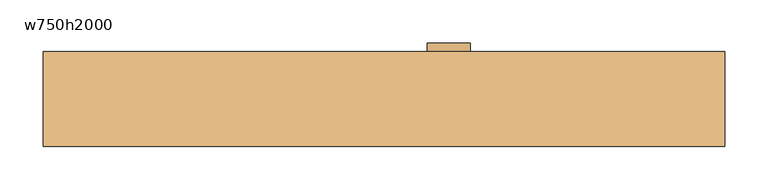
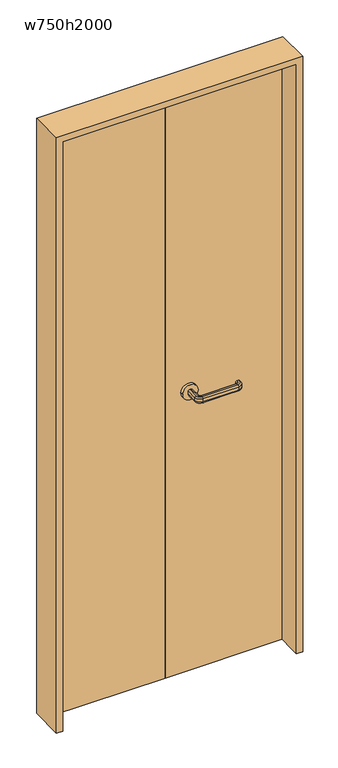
"""IFC4 building model written with IfcOpenShell, lengths in millimetres: door geometry, 両開き : w750h2000."""

from ifc_helpers import new_model, si_unit, point, frame, frame_2d, origin, origin_with_axes, place, context, project, spatial, polyline, circle_curve, ellipse_curve, trimmed, segment, composite_curve, outline, extrude, source, transform, mapped, element, save
from ifc_brep_helpers import plane_surface, cylinder_surface, revolved_surface, advanced_brep


def w750h2000_6e5f9a8d(model_context):
    return source(origin(), model_context, "Body", "SolidModel", [
        advanced_brep(
        [(77.0, 15.0, 940.0), (73.0, 15.0, 940.0), (68.0, 15.0, 945.0), (68.0, 15.0, 955.0), (73.0, 15.0, 960.0), (77.0, 15.0, 960.0), (82.0, 15.0, 955.0), (82.0, 15.0, 945.0), (77.0, -20.0, 940.0), (85.0, -28.0, 940.0), (200.0, -28.0, 940.0), (208.0, -20.0, 940.0), (208.0, -15.0, 940.0), (212.0, -15.0, 940.0), (212.0, -20.0, 940.0), (200.0, -32.0, 940.0), (85.0, -32.0, 940.0), (73.0, -20.0, 940.0), (68.0, -20.0, 945.0), (68.0, -20.0, 955.0), (73.0, -20.0, 960.0), (85.0, -32.0, 960.0), (200.0, -32.0, 960.0), (212.0, -20.0, 960.0), (212.0, -15.0, 960.0), (208.0, -15.0, 960.0), (208.0, -20.0, 960.0), (200.0, -28.0, 960.0), (85.0, -28.0, 960.0), (77.0, -20.0, 960.0), (82.0, -20.0, 955.0), (82.0, -20.0, 945.0), (85.0, -37.0, 945.0), (85.0, -37.0, 955.0), (85.0, -23.0, 955.0), (85.0, -23.0, 945.0), (200.0, -37.0, 945.0), (200.0, -37.0, 955.0), (200.0, -23.0, 955.0), (200.0, -23.0, 945.0), (217.0, -20.0, 945.0), (217.0, -20.0, 955.0), (203.0, -20.0, 955.0), (203.0, -20.0, 945.0), (203.0, -15.0, 945.0), (203.0, -15.0, 955.0), (217.0, -15.0, 955.0), (217.0, -15.0, 945.0)],
        [
            (0, 1),
            (1, 2, circle_curve(frame((73.0, 15.0, 945.0), z_axis=(0.0, 1.0, 0.0), x_axis=(1.0, 0.0, 0.0)), 5.0)),
            (2, 3),
            (3, 4, circle_curve(frame((73.0, 15.0, 955.0), z_axis=(0.0, 1.0, 0.0), x_axis=(1.0, 0.0, 0.0)), 5.0)),
            (4, 5),
            (5, 6, circle_curve(frame((77.0, 15.0, 955.0), z_axis=(0.0, 1.0, 0.0), x_axis=(1.0, 0.0, 0.0)), 5.0)),
            (6, 7),
            (7, 0, circle_curve(frame((77.0, 15.0, 945.0), z_axis=(0.0, 1.0, 0.0), x_axis=(1.0, 0.0, 0.0)), 5.0)),
            (0, 8),
            (8, 9, circle_curve(frame((85.0, -20.0, 940.0), z_axis=(0.0, 0.0, 1.0), x_axis=(-1.0, 0.0, 0.0)), 8.0)),
            (9, 10),
            (10, 11, circle_curve(frame((200.0, -20.0, 940.0), z_axis=(0.0, 0.0, 1.0), x_axis=(0.0, -1.0, 0.0)), 8.0)),
            (11, 12),
            (12, 13),
            (13, 14),
            (14, 15, circle_curve(frame((200.0, -20.0, 940.0), z_axis=(0.0, 0.0, -1.0), x_axis=(0.0, -1.0, 0.0)), 12.0)),
            (15, 16),
            (16, 17, circle_curve(frame((85.0, -20.0, 940.0), z_axis=(0.0, 0.0, -1.0), x_axis=(-1.0, 0.0, 0.0)), 12.0)),
            (17, 1),
            (17, 18, circle_curve(frame((73.0, -20.0, 945.0), z_axis=(0.0, 1.0, 0.0), x_axis=(1.0, 0.0, 0.0)), 5.0)),
            (18, 2),
            (18, 19),
            (19, 3),
            (19, 20, circle_curve(frame((73.0, -20.0, 955.0), z_axis=(0.0, 1.0, 0.0), x_axis=(1.0, 0.0, 0.0)), 5.0)),
            (20, 4),
            (20, 21, circle_curve(frame((85.0, -20.0, 960.0), z_axis=(0.0, 0.0, 1.0), x_axis=(-1.0, 0.0, 0.0)), 12.0)),
            (21, 22),
            (22, 23, circle_curve(frame((200.0, -20.0, 960.0), z_axis=(0.0, 0.0, 1.0), x_axis=(0.0, -1.0, 0.0)), 12.0)),
            (23, 24),
            (24, 25),
            (25, 26),
            (26, 27, circle_curve(frame((200.0, -20.0, 960.0), z_axis=(0.0, 0.0, -1.0), x_axis=(0.0, -1.0, 0.0)), 8.0)),
            (27, 28),
            (28, 29, circle_curve(frame((85.0, -20.0, 960.0), z_axis=(0.0, 0.0, -1.0), x_axis=(-1.0, 0.0, 0.0)), 8.0)),
            (29, 5),
            (29, 30, circle_curve(frame((77.0, -20.0, 955.0), z_axis=(0.0, 1.0, 0.0), x_axis=(1.0, 0.0, 0.0)), 5.0)),
            (30, 6),
            (30, 31),
            (31, 7),
            (31, 8, circle_curve(frame((77.0, -20.0, 945.0), z_axis=(0.0, 1.0, 0.0), x_axis=(1.0, 0.0, 0.0)), 5.0)),
            (32, 18, circle_curve(frame((85.0, -20.0, 945.0), z_axis=(0.0, 0.0, -1.0), x_axis=(-1.0, 0.0, 0.0)), 17.0)),
            (16, 32, circle_curve(frame((85.0, -32.0, 945.0), z_axis=(-1.0, 0.0, 0.0), x_axis=(0.0, 1.0, 0.0)), 5.0)),
            (33, 19, circle_curve(frame((85.0, -20.0, 955.0), z_axis=(0.0, 0.0, -1.0), x_axis=(-1.0, 0.0, 0.0)), 17.0)),
            (32, 33),
            (33, 21, circle_curve(frame((85.0, -32.0, 955.0), z_axis=(-1.0, 0.0, 0.0), x_axis=(0.0, 1.0, 0.0)), 5.0)),
            (34, 30, circle_curve(frame((85.0, -20.0, 955.0), z_axis=(0.0, 0.0, -1.0), x_axis=(-1.0, 0.0, 0.0)), 3.0)),
            (28, 34, circle_curve(frame((85.0, -28.0, 955.0), z_axis=(-1.0, 0.0, 0.0), x_axis=(0.0, 1.0, 0.0)), 5.0)),
            (35, 31, circle_curve(frame((85.0, -20.0, 945.0), z_axis=(0.0, 0.0, -1.0), x_axis=(-1.0, 0.0, 0.0)), 3.0)),
            (34, 35),
            (35, 9, circle_curve(frame((85.0, -28.0, 945.0), z_axis=(-1.0, 0.0, 0.0), x_axis=(0.0, 1.0, 0.0)), 5.0)),
            (15, 36, circle_curve(frame((200.0, -32.0, 945.0), z_axis=(-1.0, 0.0, 0.0), x_axis=(0.0, 1.0, 0.0)), 5.0)),
            (36, 32),
            (36, 37),
            (37, 33),
            (37, 22, circle_curve(frame((200.0, -32.0, 955.0), z_axis=(-1.0, 0.0, 0.0), x_axis=(0.0, 1.0, 0.0)), 5.0)),
            (27, 38, circle_curve(frame((200.0, -28.0, 955.0), z_axis=(-1.0, 0.0, 0.0), x_axis=(0.0, 1.0, 0.0)), 5.0)),
            (38, 34),
            (38, 39),
            (39, 35),
            (39, 10, circle_curve(frame((200.0, -28.0, 945.0), z_axis=(-1.0, 0.0, 0.0), x_axis=(0.0, 1.0, 0.0)), 5.0)),
            (40, 36, circle_curve(frame((200.0, -20.0, 945.0), z_axis=(0.0, 0.0, -1.0), x_axis=(0.0, -1.0, 0.0)), 17.0)),
            (14, 40, circle_curve(frame((212.0, -20.0, 945.0), z_axis=(0.0, -1.0, 0.0), x_axis=(-1.0, 0.0, 0.0)), 5.0)),
            (41, 37, circle_curve(frame((200.0, -20.0, 955.0), z_axis=(0.0, 0.0, -1.0), x_axis=(0.0, -1.0, 0.0)), 17.0)),
            (40, 41),
            (41, 23, circle_curve(frame((212.0, -20.0, 955.0), z_axis=(0.0, -1.0, 0.0), x_axis=(-1.0, 0.0, 0.0)), 5.0)),
            (42, 38, circle_curve(frame((200.0, -20.0, 955.0), z_axis=(0.0, 0.0, -1.0), x_axis=(0.0, -1.0, 0.0)), 3.0)),
            (26, 42, circle_curve(frame((208.0, -20.0, 955.0), z_axis=(0.0, -1.0, 0.0), x_axis=(-1.0, 0.0, 0.0)), 5.0)),
            (43, 39, circle_curve(frame((200.0, -20.0, 945.0), z_axis=(0.0, 0.0, -1.0), x_axis=(0.0, -1.0, 0.0)), 3.0)),
            (42, 43),
            (43, 11, circle_curve(frame((208.0, -20.0, 945.0), z_axis=(0.0, -1.0, 0.0), x_axis=(-1.0, 0.0, 0.0)), 5.0)),
            (12, 44, circle_curve(frame((208.0, -15.0, 945.0), z_axis=(0.0, 1.0, 0.0), x_axis=(-1.0, 0.0, 0.0)), 5.0)),
            (44, 45),
            (45, 25, circle_curve(frame((208.0, -15.0, 955.0), z_axis=(0.0, 1.0, 0.0), x_axis=(-1.0, 0.0, 0.0)), 5.0)),
            (24, 46, circle_curve(frame((212.0, -15.0, 955.0), z_axis=(0.0, 1.0, 0.0), x_axis=(-1.0, 0.0, 0.0)), 5.0)),
            (46, 47),
            (47, 13, circle_curve(frame((212.0, -15.0, 945.0), z_axis=(0.0, 1.0, 0.0), x_axis=(-1.0, 0.0, 0.0)), 5.0)),
            (47, 40),
            (46, 41),
            (45, 42),
            (44, 43),
        ],
        [
            plane_surface(frame((64.801961, 15.0, 950.0), z_axis=(0.0, 1.0, 0.0), x_axis=(0.0, 0.0, -1.0))),
            plane_surface(frame((77.0, 15.0, 940.0), z_axis=(0.0, 0.0, -1.0), x_axis=(0.0, -1.0, 0.0))),
            cylinder_surface(frame((73.0, 15.0, 945.0), z_axis=(0.0, 1.0, 0.0), x_axis=(1.0, 0.0, 0.0)), 5.0),
            plane_surface(frame((68.0, 15.0, 945.0), z_axis=(-1.0, 0.0, 0.0), x_axis=(0.0, -1.0, 0.0))),
            cylinder_surface(frame((73.0, 15.0, 955.0), z_axis=(0.0, 1.0, 0.0), x_axis=(1.0, 0.0, 0.0)), 5.0),
            plane_surface(frame((73.0, 15.0, 960.0), z_axis=(0.0, 0.0, 1.0), x_axis=(0.0, -1.0, 0.0))),
            cylinder_surface(frame((77.0, 15.0, 955.0), z_axis=(0.0, 1.0, 0.0), x_axis=(1.0, 0.0, 0.0)), 5.0),
            plane_surface(frame((82.0, 15.0, 955.0), z_axis=(1.0, 0.0, 0.0), x_axis=(0.0, -1.0, 0.0))),
            cylinder_surface(frame((77.0, 15.0, 945.0), z_axis=(0.0, 1.0, 0.0), x_axis=(1.0, 0.0, 0.0)), 5.0),
            revolved_surface(trimmed(ellipse_curve(frame((73.0, -20.0, 945.0), z_axis=(0.0, 1.0, 0.0), x_axis=(1.0, 0.0, 0.0)), 5.0, 5.0), [point((73.0, -20.0, 940.0))], [point((68.0, -20.0, 945.0))], True, "CARTESIAN"), (85.0, -20.0, 950.0), (0.0, 0.0, 1.0)),
            cylinder_surface(frame((85.0, -20.0, 950.0), z_axis=(0.0, 0.0, 1.0), x_axis=(-1.0, 0.0, 0.0)), 17.0),
            revolved_surface(trimmed(ellipse_curve(frame((73.0, -20.0, 955.0), z_axis=(0.0, 1.0, 0.0), x_axis=(1.0, 0.0, 0.0)), 5.0, 5.0), [point((68.0, -20.0, 955.0))], [point((73.0, -20.0, 960.0))], True, "CARTESIAN"), (85.0, -20.0, 950.0), (0.0, 0.0, 1.0)),
            revolved_surface(trimmed(ellipse_curve(frame((77.0, -20.0, 955.0), z_axis=(0.0, 1.0, 0.0), x_axis=(1.0, 0.0, 0.0)), 5.0, 5.0), [point((77.0, -20.0, 960.0))], [point((82.0, -20.0, 955.0))], True, "CARTESIAN"), (85.0, -20.0, 950.0), (0.0, 0.0, 1.0)),
            revolved_surface(polyline([(82.0, -20.0, 955.0), (82.0, -20.0, 945.0)]), (85.0, -20.0, 950.0), (0.0, 0.0, 1.0)),
            revolved_surface(trimmed(ellipse_curve(frame((77.0, -20.0, 945.0), z_axis=(0.0, 1.0, 0.0), x_axis=(1.0, 0.0, 0.0)), 5.0, 5.0), [point((82.0, -20.0, 945.0))], [point((77.0, -20.0, 940.0))], True, "CARTESIAN"), (85.0, -20.0, 950.0), (0.0, 0.0, 1.0)),
            cylinder_surface(frame((85.0, -32.0, 945.0), z_axis=(-1.0, 0.0, 0.0), x_axis=(0.0, 1.0, 0.0)), 5.0),
            plane_surface(frame((85.0, -37.0, 945.0), z_axis=(0.0, -1.0, 0.0), x_axis=(1.0, 0.0, 0.0))),
            cylinder_surface(frame((85.0, -32.0, 955.0), z_axis=(-1.0, 0.0, 0.0), x_axis=(0.0, 1.0, 0.0)), 5.0),
            cylinder_surface(frame((85.0, -28.0, 955.0), z_axis=(-1.0, 0.0, 0.0), x_axis=(0.0, 1.0, 0.0)), 5.0),
            plane_surface(frame((85.0, -23.0, 955.0), z_axis=(0.0, 1.0, 0.0), x_axis=(1.0, 0.0, 0.0))),
            cylinder_surface(frame((85.0, -28.0, 945.0), z_axis=(-1.0, 0.0, 0.0), x_axis=(0.0, 1.0, 0.0)), 5.0),
            revolved_surface(trimmed(ellipse_curve(frame((200.0, -32.0, 945.0), z_axis=(-1.0, 0.0, 0.0), x_axis=(0.0, 1.0, 0.0)), 5.0, 5.0), [point((200.0, -32.0, 940.0))], [point((200.0, -37.0, 945.0))], True, "CARTESIAN"), (200.0, -20.0, 950.0), (0.0, 0.0, 1.0)),
            cylinder_surface(frame((200.0, -20.0, 950.0), z_axis=(0.0, 0.0, 1.0), x_axis=(0.0, -1.0, 0.0)), 17.0),
            revolved_surface(trimmed(ellipse_curve(frame((200.0, -32.0, 955.0), z_axis=(-1.0, 0.0, 0.0), x_axis=(0.0, 1.0, 0.0)), 5.0, 5.0), [point((200.0, -37.0, 955.0))], [point((200.0, -32.0, 960.0))], True, "CARTESIAN"), (200.0, -20.0, 950.0), (0.0, 0.0, 1.0)),
            revolved_surface(trimmed(ellipse_curve(frame((200.0, -28.0, 955.0), z_axis=(-1.0, 0.0, 0.0), x_axis=(0.0, 1.0, 0.0)), 5.0, 5.0), [point((200.0, -28.0, 960.0))], [point((200.0, -23.0, 955.0))], True, "CARTESIAN"), (200.0, -20.0, 950.0), (0.0, 0.0, 1.0)),
            revolved_surface(polyline([(200.0, -23.0, 955.0), (200.0, -23.0, 945.0)]), (200.0, -20.0, 950.0), (0.0, 0.0, 1.0)),
            revolved_surface(trimmed(ellipse_curve(frame((200.0, -28.0, 945.0), z_axis=(-1.0, 0.0, 0.0), x_axis=(0.0, 1.0, 0.0)), 5.0, 5.0), [point((200.0, -23.0, 945.0))], [point((200.0, -28.0, 940.0))], True, "CARTESIAN"), (200.0, -20.0, 950.0), (0.0, 0.0, 1.0)),
            plane_surface(frame((199.801961, -15.0, 950.0), z_axis=(0.0, 1.0, 0.0), x_axis=(0.0, 0.0, 1.0))),
            cylinder_surface(frame((212.0, -20.0, 945.0), z_axis=(0.0, -1.0, 0.0), x_axis=(-1.0, 0.0, 0.0)), 5.0),
            plane_surface(frame((217.0, -20.0, 945.0), z_axis=(1.0, 0.0, 0.0), x_axis=(0.0, 1.0, 0.0))),
            cylinder_surface(frame((212.0, -20.0, 955.0), z_axis=(0.0, -1.0, 0.0), x_axis=(-1.0, 0.0, 0.0)), 5.0),
            cylinder_surface(frame((208.0, -20.0, 955.0), z_axis=(0.0, -1.0, 0.0), x_axis=(-1.0, 0.0, 0.0)), 5.0),
            plane_surface(frame((203.0, -20.0, 955.0), z_axis=(-1.0, 0.0, 0.0), x_axis=(0.0, 1.0, 0.0))),
            cylinder_surface(frame((208.0, -20.0, 945.0), z_axis=(0.0, -1.0, 0.0), x_axis=(-1.0, 0.0, 0.0)), 5.0),
        ],
        [
            (0, [[1, 2, 3, 4, 5, 6, 7, 8]]),
            (1, [[-1, 9, 10, 11, 12, 13, 14, 15, 16, 17, 18, 19]]),
            (2, [[-2, -19, 20, 21]]),
            (3, [[-3, -21, 22, 23]]),
            (4, [[-4, -23, 24, 25]]),
            (5, [[-5, -25, 26, 27, 28, 29, 30, 31, 32, 33, 34, 35]]),
            (6, [[-6, -35, 36, 37]]),
            (7, [[-7, -37, 38, 39]]),
            (8, [[-8, -39, 40, -9]]),
            (9, [[41, -20, -18, 42]]),
            (10, [[43, -22, -41, 44]]),
            (11, [[-26, -24, -43, 45]]),
            (12, [[46, -36, -34, 47]]),
            (13, [[48, -38, -46, 49]]),
            (14, [[-10, -40, -48, 50]]),
            (15, [[-42, -17, 51, 52]]),
            (16, [[-44, -52, 53, 54]]),
            (17, [[-45, -54, 55, -27]]),
            (18, [[-47, -33, 56, 57]]),
            (19, [[-49, -57, 58, 59]]),
            (20, [[-50, -59, 60, -11]]),
            (21, [[61, -51, -16, 62]]),
            (22, [[63, -53, -61, 64]]),
            (23, [[-28, -55, -63, 65]]),
            (24, [[66, -56, -32, 67]]),
            (25, [[68, -58, -66, 69]]),
            (26, [[-12, -60, -68, 70]]),
            (27, [[71, 72, 73, -30, 74, 75, 76, -14]]),
            (28, [[-62, -15, -76, 77]]),
            (29, [[-64, -77, -75, 78]]),
            (30, [[-65, -78, -74, -29]]),
            (31, [[-67, -31, -73, 79]]),
            (32, [[-69, -79, -72, 80]]),
            (33, [[-70, -80, -71, -13]]),
        ],
    ),
        extrude(outline(composite_curve([segment(trimmed(circle_curve(frame_2d((950.0, 75.0)), 25.0), [point((950.0, 50.0))], [point((950.0, 100.0))], False, "CARTESIAN"), True, "CONTINUOUS"), segment(trimmed(circle_curve(frame_2d((950.0, 75.0)), 25.0), [point((950.0, 100.0))], [point((950.0, 50.0))], False, "CARTESIAN"), True, "CONTINUOUS")], self_intersect=False)), frame((0.0, 55.0, 0.0), z_axis=(0.0, 1.0, 0.0), x_axis=(0.0, 0.0, 1.0)), (0.0, 0.0, 1.0), 10.0),
        extrude(outline(composite_curve([segment(trimmed(circle_curve(frame_2d((950.0, 75.0)), 25.0), [point((950.0, 50.0))], [point((950.0, 100.0))], False, "CARTESIAN"), True, "CONTINUOUS"), segment(trimmed(circle_curve(frame_2d((950.0, 75.0)), 25.0), [point((950.0, 100.0))], [point((950.0, 50.0))], False, "CARTESIAN"), True, "CONTINUOUS")], self_intersect=False)), frame((0.0, 15.0, 0.0), z_axis=(0.0, 1.0, 0.0), x_axis=(0.0, 0.0, 1.0)), (0.0, 0.0, 1.0), 10.0),
        extrude(outline(polyline([(0.0, 25.0), (-375.0, 25.0), (-375.0, 55.0), (0.0, 55.0), (0.0, 25.0)])), origin_with_axes(), (0.0, 0.0, 1.0), 2000.0),
        extrude(outline(polyline([(2020.0, -395.0), (0.0, -395.0), (0.0, -375.0), (2000.0, -375.0), (2000.0, 375.0), (0.0, 375.0), (0.0, 395.0), (2020.0, 395.0), (2020.0, -395.0)])), frame((0.0, -55.0, 0.0), z_axis=(0.0, 1.0, 0.0), x_axis=(0.0, 0.0, 1.0)), (0.0, 0.0, 1.0), 110.0),
        extrude(outline(polyline([(375.0, 25.0), (0.0, 25.0), (0.0, 55.0), (375.0, 55.0), (375.0, 25.0)])), origin_with_axes(), (0.0, 0.0, 1.0), 2000.0),
    ])


if __name__ == "__main__":
    model = new_model("IFC4")
    model_context = context("Model", 3, world=origin())
    ifc_project = project(units=[si_unit("LENGTHUNIT", "METRE", prefix="MILLI")], contexts=[model_context])
    site = spatial("IfcSite", under=ifc_project)
    building = spatial("IfcBuilding", under=site)
    placement = place(None, origin())
    w750h2000_shape = w750h2000_6e5f9a8d(model_context)
    element("IfcDoor", 1, ObjectType="両開き : w750h2000", at=placement, inside=building, context=model_context, shape_type="MappedRepresentation", body=[
        mapped(w750h2000_shape, transform((0.0, 0.0, 0.0), x_axis=(1.0, 0.0, 0.0), y_axis=(0.0, 1.0, 0.0), z_axis=(0.0, 0.0, 1.0))),
    ])
    save(model, "model.ifc")
